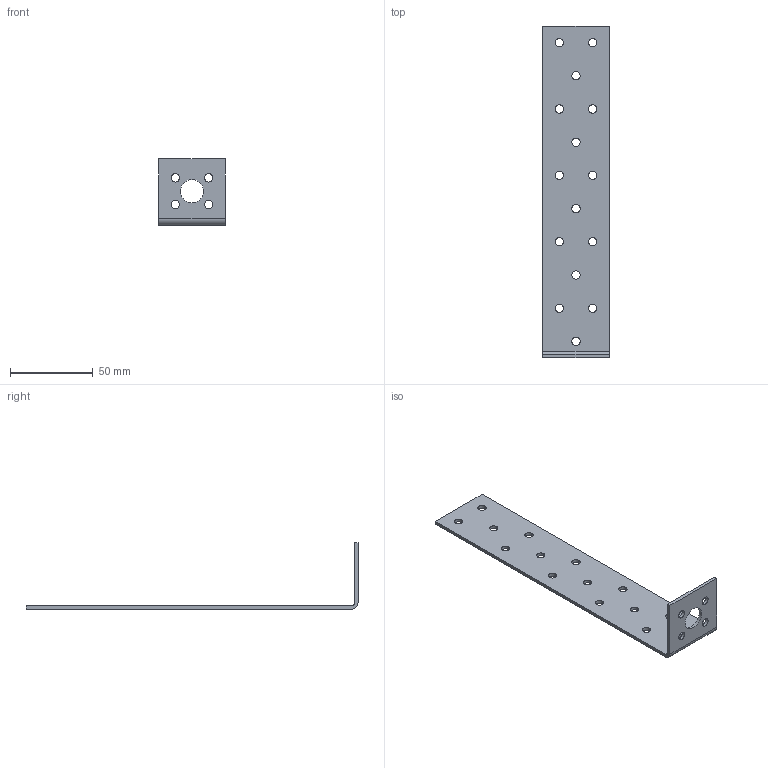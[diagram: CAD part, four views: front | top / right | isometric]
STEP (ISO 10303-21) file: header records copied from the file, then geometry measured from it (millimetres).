
FILE_DESCRIPTION (( 'STEP AP203' ), '1' );
FILE_NAME ('522.STEP', '2020-02-10T14:41:28', ( '' ), ( '' ), 'SwSTEP 2.0', 'SolidWorks 2013', '' );
FILE_SCHEMA (( 'CONFIG_CONTROL_DESIGN' ));
Length unit declared in the file: millimetre
Products named in the file (1): 522
Bounding box: 40 x 200 x 40 mm (x, y, z)
Volume: 17883 mm3; surface area: 19674.7 mm2
Topology: 1 solids, 1 shells, 50 faces, 144 edges, 96 vertices
Faces by surface type: cylinder 42, plane 8
Entity records: 1849 total; most frequent: DIRECTION 330, CARTESIAN_POINT 291, ORIENTED_EDGE 288, EDGE_CURVE 144, AXIS2_PLACEMENT_3D 135, VERTEX_POINT 96, EDGE_LOOP 90, CIRCLE 84
